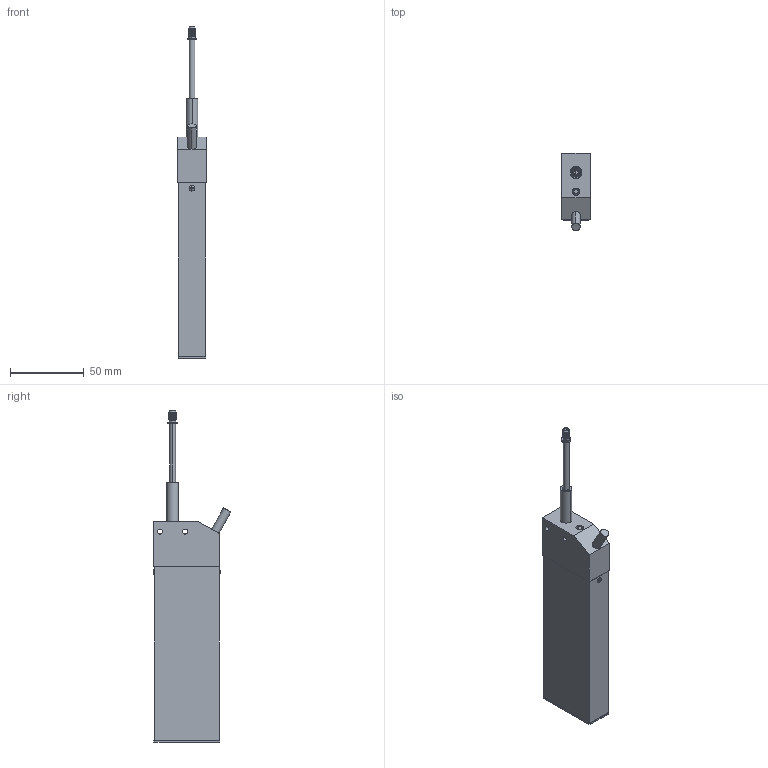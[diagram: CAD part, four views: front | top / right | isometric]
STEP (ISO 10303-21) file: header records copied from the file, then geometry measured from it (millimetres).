
FILE_DESCRIPTION (( 'STEP AP214' ), '1' );
FILE_NAME ('ﾋﾈﾐ-17.STEP', '2017-05-23T08:25:52', ( '' ), ( '' ), 'SwSTEP 2.0', 'SolidWorks 2013', '' );
FILE_SCHEMA (( 'AUTOMOTIVE_DESIGN' ));
Length unit declared in the file: millimetre
Products named in the file (1): ﾋﾈﾐ-17
Bounding box: 19.5 x 52.62 x 225.25 mm (x, y, z)
Volume: 47568.4 mm3; surface area: 51377.5 mm2
Topology: 66 solids, 66 shells, 836 faces, 2515 edges, 1659 vertices
Faces by surface type: cylinder 297, plane 233, sphere 170, cone 93, torus 40, bspline 3
Entity records: 39232 total; most frequent: CARTESIAN_POINT 8837, ORIENTED_EDGE 4430, DIRECTION 4004, EDGE_CURVE 2215, AXIS2_PLACEMENT_3D 1638, VERTEX_POINT 1483, EDGE_LOOP 978, UNCERTAINTY_MEASURE_WITH_UNIT 904
